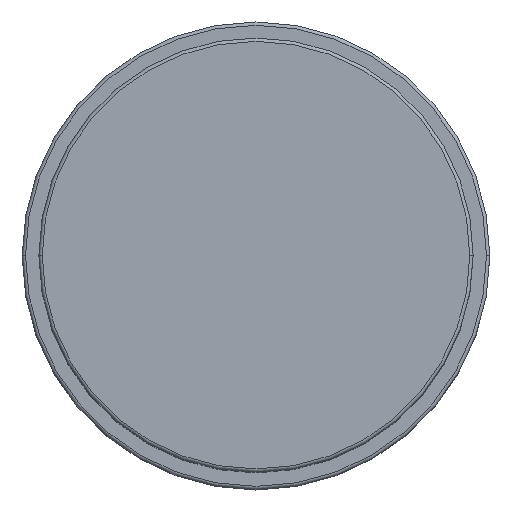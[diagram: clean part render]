
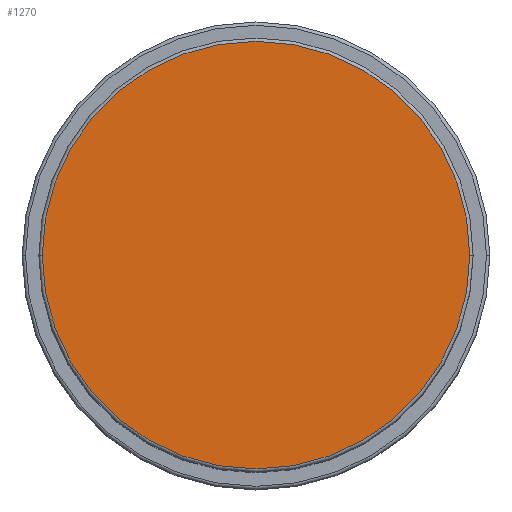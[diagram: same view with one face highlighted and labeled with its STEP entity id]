
A CAD part, top view. The second image highlights one B-rep face of the part: STEP entity #1270.
In plain terms, the highlighted planar face has unit normal (0, 0, 1).
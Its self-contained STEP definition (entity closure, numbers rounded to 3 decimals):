
#63 = VERTEX_POINT ( 'NONE', #1471 ) ;
#75 = DIRECTION ( 'NONE',  ( 1., 0., 0. ) ) ;
#92 = AXIS2_PLACEMENT_3D ( 'NONE', #1038, #240, #75 ) ;
#179 = DIRECTION ( 'NONE',  ( 1., 0., 0. ) ) ;
#240 = DIRECTION ( 'NONE',  ( 0., 0., 1. ) ) ;
#281 = ORIENTED_EDGE ( 'NONE', *, *, #348, .T. ) ;
#283 = AXIS2_PLACEMENT_3D ( 'NONE', #465, #1560, #628 ) ;
#315 = CIRCLE ( 'NONE', #678, 32. ) ;
#348 = EDGE_CURVE ( 'NONE', #63, #1735, #315, .T. ) ;
#465 = CARTESIAN_POINT ( 'NONE',  ( 0., 0., 87. ) ) ;
#623 = EDGE_LOOP ( 'NONE', ( #1363, #281 ) ) ;
#628 = DIRECTION ( 'NONE',  ( 1., 0., 0. ) ) ;
#678 = AXIS2_PLACEMENT_3D ( 'NONE', #792, #1129, #179 ) ;
#792 = CARTESIAN_POINT ( 'NONE',  ( 0., 0., 87. ) ) ;
#1038 = CARTESIAN_POINT ( 'NONE',  ( 0., 0., 87. ) ) ;
#1129 = DIRECTION ( 'NONE',  ( 0., 0., 1. ) ) ;
#1183 = PLANE ( 'NONE',  #92 ) ;
#1270 = ADVANCED_FACE ( 'NONE', ( #1336 ), #1183, .T. ) ;
#1336 = FACE_OUTER_BOUND ( 'NONE', #623, .T. ) ;
#1363 = ORIENTED_EDGE ( 'NONE', *, *, #1477, .T. ) ;
#1366 = CARTESIAN_POINT ( 'NONE',  ( 32., 0., 87. ) ) ;
#1471 = CARTESIAN_POINT ( 'NONE',  ( -32., 0., 87. ) ) ;
#1477 = EDGE_CURVE ( 'NONE', #1735, #63, #1718, .T. ) ;
#1560 = DIRECTION ( 'NONE',  ( 0., 0., 1. ) ) ;
#1718 = CIRCLE ( 'NONE', #283, 32. ) ;
#1735 = VERTEX_POINT ( 'NONE', #1366 ) ;
